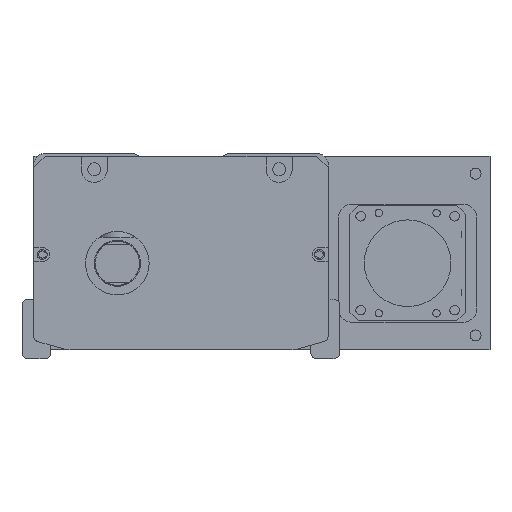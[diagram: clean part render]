
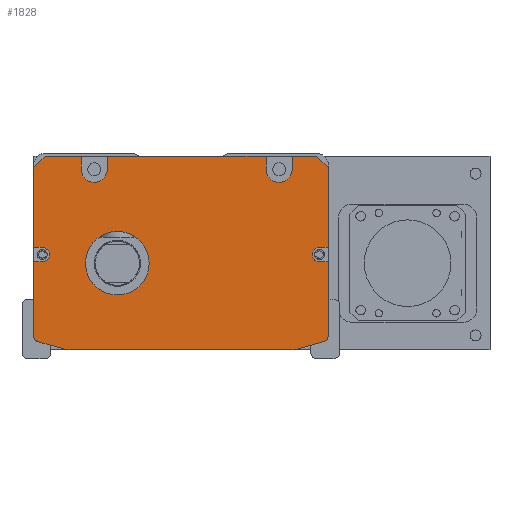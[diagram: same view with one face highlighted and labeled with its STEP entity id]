
A CAD part, front view. The second image highlights one B-rep face of the part: STEP entity #1828.
In plain terms, the highlighted planar face has unit normal (0, -1, 0).
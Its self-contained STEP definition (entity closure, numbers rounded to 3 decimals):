
#1828=ADVANCED_FACE('',(#4376,#4377),#2367,.F.);
#2367=PLANE('',#13833);
#2900=LINE('',#26666,#3695);
#2904=LINE('',#26675,#3699);
#2912=LINE('',#26702,#3707);
#2916=LINE('',#26711,#3711);
#2923=LINE('',#26727,#3718);
#2925=LINE('',#26732,#3720);
#2940=LINE('',#26775,#3735);
#2942=LINE('',#26783,#3737);
#2945=LINE('',#26787,#3740);
#2966=LINE('',#26855,#3761);
#2970=LINE('',#26864,#3765);
#2974=LINE('',#26873,#3769);
#2978=LINE('',#26882,#3773);
#2982=LINE('',#26898,#3777);
#2986=LINE('',#26904,#3781);
#2987=LINE('',#26905,#3782);
#2989=LINE('',#26921,#3784);
#2990=LINE('',#26922,#3785);
#2991=LINE('',#26923,#3786);
#2992=LINE('',#26924,#3787);
#3695=VECTOR('',#16325,1.);
#3699=VECTOR('',#16331,1.);
#3707=VECTOR('',#16353,1.);
#3711=VECTOR('',#16359,1.);
#3718=VECTOR('',#16368,1.);
#3720=VECTOR('',#16372,1.);
#3735=VECTOR('',#16411,1.);
#3737=VECTOR('',#16421,1.);
#3740=VECTOR('',#16426,1.);
#3761=VECTOR('',#16501,1.);
#3765=VECTOR('',#16507,1.);
#3769=VECTOR('',#16513,1.);
#3773=VECTOR('',#16519,1.);
#3777=VECTOR('',#16537,1.);
#3781=VECTOR('',#16541,1.);
#3782=VECTOR('',#16542,1.);
#3784=VECTOR('',#16566,1.);
#3785=VECTOR('',#16567,1.);
#3786=VECTOR('',#16568,1.);
#3787=VECTOR('',#16569,1.);
#4376=FACE_BOUND('',#5246,.T.);
#4377=FACE_BOUND('',#5247,.T.);
#5246=EDGE_LOOP('',(#7701,#7702,#7703,#7704,#7705,#7706,#7707,#7708,#7709,
#7710,#7711,#7712,#7713,#7714,#7715,#7716,#7717,#7718,#7719,#7720,#7721,
#7722,#7723,#7724,#7725,#7726,#7727,#7728));
#5247=EDGE_LOOP('',(#7729));
#7701=ORIENTED_EDGE('',*,*,#11662,.T.);
#7702=ORIENTED_EDGE('',*,*,#11539,.T.);
#7703=ORIENTED_EDGE('',*,*,#11649,.T.);
#7704=ORIENTED_EDGE('',*,*,#11566,.F.);
#7705=ORIENTED_EDGE('',*,*,#11603,.T.);
#7706=ORIENTED_EDGE('',*,*,#11568,.F.);
#7707=ORIENTED_EDGE('',*,*,#11654,.T.);
#7708=ORIENTED_EDGE('',*,*,#11555,.F.);
#7709=ORIENTED_EDGE('',*,*,#11600,.T.);
#7710=ORIENTED_EDGE('',*,*,#11559,.F.);
#7711=ORIENTED_EDGE('',*,*,#11653,.T.);
#7712=ORIENTED_EDGE('',*,*,#11543,.T.);
#7713=ORIENTED_EDGE('',*,*,#11663,.T.);
#7714=ORIENTED_EDGE('',*,*,#11633,.T.);
#7715=ORIENTED_EDGE('',*,*,#11661,.T.);
#7716=ORIENTED_EDGE('',*,*,#11629,.T.);
#7717=ORIENTED_EDGE('',*,*,#11664,.T.);
#7718=ORIENTED_EDGE('',*,*,#11586,.T.);
#7719=ORIENTED_EDGE('',*,*,#11589,.T.);
#7720=ORIENTED_EDGE('',*,*,#11592,.T.);
#7721=ORIENTED_EDGE('',*,*,#11593,.T.);
#7722=ORIENTED_EDGE('',*,*,#11549,.T.);
#7723=ORIENTED_EDGE('',*,*,#11596,.T.);
#7724=ORIENTED_EDGE('',*,*,#11551,.T.);
#7725=ORIENTED_EDGE('',*,*,#11665,.T.);
#7726=ORIENTED_EDGE('',*,*,#11641,.T.);
#7727=ORIENTED_EDGE('',*,*,#11660,.T.);
#7728=ORIENTED_EDGE('',*,*,#11637,.T.);
#7729=ORIENTED_EDGE('',*,*,#11605,.T.);
#10007=VERTEX_POINT('',#26667);
#10008=VERTEX_POINT('',#26668);
#10011=VERTEX_POINT('',#26676);
#10012=VERTEX_POINT('',#26677);
#10017=VERTEX_POINT('',#26688);
#10018=VERTEX_POINT('',#26690);
#10019=VERTEX_POINT('',#26694);
#10020=VERTEX_POINT('',#26695);
#10023=VERTEX_POINT('',#26703);
#10024=VERTEX_POINT('',#26704);
#10027=VERTEX_POINT('',#26712);
#10028=VERTEX_POINT('',#26713);
#10032=VERTEX_POINT('',#26722);
#10034=VERTEX_POINT('',#26726);
#10035=VERTEX_POINT('',#26730);
#10037=VERTEX_POINT('',#26733);
#10047=VERTEX_POINT('',#26763);
#10050=VERTEX_POINT('',#26768);
#10052=VERTEX_POINT('',#26774);
#10054=VERTEX_POINT('',#26780);
#10057=VERTEX_POINT('',#26806);
#10073=VERTEX_POINT('',#26853);
#10075=VERTEX_POINT('',#26856);
#10078=VERTEX_POINT('',#26863);
#10079=VERTEX_POINT('',#26865);
#10081=VERTEX_POINT('',#26871);
#10083=VERTEX_POINT('',#26874);
#10086=VERTEX_POINT('',#26881);
#10087=VERTEX_POINT('',#26883);
#11539=EDGE_CURVE('',#10007,#10008,#2900,.T.);
#11543=EDGE_CURVE('',#10011,#10012,#2904,.T.);
#11549=EDGE_CURVE('',#10018,#10017,#12708,.T.);
#11551=EDGE_CURVE('',#10019,#10020,#12709,.T.);
#11555=EDGE_CURVE('',#10023,#10024,#2912,.T.);
#11559=EDGE_CURVE('',#10027,#10028,#2916,.T.);
#11566=EDGE_CURVE('',#10034,#10032,#2923,.T.);
#11568=EDGE_CURVE('',#10035,#10037,#2925,.T.);
#11586=EDGE_CURVE('',#10047,#10050,#12716,.T.);
#11589=EDGE_CURVE('',#10050,#10052,#2940,.T.);
#11592=EDGE_CURVE('',#10052,#10054,#12718,.T.);
#11593=EDGE_CURVE('',#10054,#10018,#2942,.T.);
#11596=EDGE_CURVE('',#10017,#10019,#2945,.T.);
#11600=EDGE_CURVE('',#10023,#10028,#12721,.T.);
#11603=EDGE_CURVE('',#10034,#10037,#12724,.T.);
#11605=EDGE_CURVE('',#10057,#10057,#12725,.T.);
#11629=EDGE_CURVE('',#10075,#10073,#2966,.T.);
#11633=EDGE_CURVE('',#10079,#10078,#2970,.T.);
#11637=EDGE_CURVE('',#10083,#10081,#2974,.T.);
#11641=EDGE_CURVE('',#10087,#10086,#2978,.T.);
#11649=EDGE_CURVE('',#10008,#10032,#2982,.T.);
#11653=EDGE_CURVE('',#10027,#10011,#2986,.T.);
#11654=EDGE_CURVE('',#10035,#10024,#2987,.T.);
#11660=EDGE_CURVE('',#10086,#10083,#12739,.T.);
#11661=EDGE_CURVE('',#10078,#10075,#12740,.T.);
#11662=EDGE_CURVE('',#10081,#10007,#2989,.T.);
#11663=EDGE_CURVE('',#10012,#10079,#2990,.T.);
#11664=EDGE_CURVE('',#10073,#10047,#2991,.T.);
#11665=EDGE_CURVE('',#10020,#10087,#2992,.T.);
#12708=CIRCLE('',#13760,10.);
#12709=CIRCLE('',#13762,2.);
#12716=CIRCLE('',#13778,2.);
#12718=CIRCLE('',#13782,10.);
#12721=CIRCLE('',#13790,4.5);
#12724=CIRCLE('',#13795,4.5);
#12725=CIRCLE('',#13798,11.);
#12739=CIRCLE('',#13829,2.5);
#12740=CIRCLE('',#13831,2.5);
#13760=AXIS2_PLACEMENT_3D('',#26689,#16340,#16341);
#13762=AXIS2_PLACEMENT_3D('',#26693,#16345,#16346);
#13778=AXIS2_PLACEMENT_3D('',#26769,#16405,#16406);
#13782=AXIS2_PLACEMENT_3D('',#26781,#16417,#16418);
#13790=AXIS2_PLACEMENT_3D('',#26795,#16438,#16439);
#13795=AXIS2_PLACEMENT_3D('',#26801,#16448,#16449);
#13798=AXIS2_PLACEMENT_3D('',#26805,#16455,#16456);
#13829=AXIS2_PLACEMENT_3D('',#26917,#16558,#16559);
#13831=AXIS2_PLACEMENT_3D('',#26919,#16562,#16563);
#13833=AXIS2_PLACEMENT_3D('',#26925,#16570,#16571);
#16325=DIRECTION('',(-0.707,0.,0.707));
#16331=DIRECTION('',(-0.707,0.,-0.707));
#16340=DIRECTION('',(0.,-1.,0.));
#16341=DIRECTION('',(0.,0.,-1.));
#16345=DIRECTION('',(0.,-1.,0.));
#16346=DIRECTION('',(0.,0.,-1.));
#16353=DIRECTION('',(0.,0.,1.));
#16359=DIRECTION('',(0.,0.,-1.));
#16368=DIRECTION('',(0.,0.,1.));
#16372=DIRECTION('',(0.,0.,-1.));
#16405=DIRECTION('',(0.,-1.,0.));
#16406=DIRECTION('',(0.,0.,1.));
#16411=DIRECTION('',(0.963,0.,-0.269));
#16417=DIRECTION('',(0.,-1.,0.));
#16418=DIRECTION('',(0.,0.,1.));
#16421=DIRECTION('',(1.,0.,0.));
#16426=DIRECTION('',(0.963,0.,0.269));
#16438=DIRECTION('',(0.,1.,0.));
#16439=DIRECTION('',(0.,0.,1.));
#16448=DIRECTION('',(0.,1.,0.));
#16449=DIRECTION('',(0.,0.,1.));
#16455=DIRECTION('',(0.,1.,0.));
#16456=DIRECTION('',(0.,0.,1.));
#16501=DIRECTION('',(-1.,0.,0.));
#16507=DIRECTION('',(1.,0.,0.));
#16513=DIRECTION('',(1.,0.,0.));
#16519=DIRECTION('',(-1.,0.,0.));
#16537=DIRECTION('',(-1.,0.,0.));
#16541=DIRECTION('',(-1.,0.,0.));
#16542=DIRECTION('',(-1.,0.,0.));
#16558=DIRECTION('',(0.,1.,0.));
#16559=DIRECTION('',(0.,0.,1.));
#16562=DIRECTION('',(0.,1.,0.));
#16563=DIRECTION('',(0.,0.,1.));
#16566=DIRECTION('',(0.,0.,1.));
#16567=DIRECTION('',(0.,0.,-1.));
#16568=DIRECTION('',(0.,0.,-1.));
#16569=DIRECTION('',(0.,0.,1.));
#16570=DIRECTION('',(0.,1.,0.));
#16571=DIRECTION('',(-1.,0.,0.));
#26666=CARTESIAN_POINT('',(43.808,-267.5,-1.));
#26667=CARTESIAN_POINT('',(47.808,-267.5,-5.));
#26668=CARTESIAN_POINT('',(43.808,-267.5,-1.));
#26675=CARTESIAN_POINT('',(-54.192,-267.5,-5.));
#26676=CARTESIAN_POINT('',(-50.192,-267.5,-1.));
#26677=CARTESIAN_POINT('',(-54.192,-267.5,-5.));
#26688=CARTESIAN_POINT('',(37.424,-267.5,-67.631));
#26689=CARTESIAN_POINT('',(34.733,-267.5,-58.));
#26690=CARTESIAN_POINT('',(34.733,-267.5,-68.));
#26693=CARTESIAN_POINT('',(45.808,-267.5,-63.212));
#26694=CARTESIAN_POINT('',(46.346,-267.5,-65.138));
#26695=CARTESIAN_POINT('',(47.808,-267.5,-63.212));
#26702=CARTESIAN_POINT('',(-28.692,-267.5,-3.5));
#26703=CARTESIAN_POINT('',(-28.692,-267.5,-5.5));
#26704=CARTESIAN_POINT('',(-28.692,-267.5,-1.));
#26711=CARTESIAN_POINT('',(-37.692,-267.5,-1.));
#26712=CARTESIAN_POINT('',(-37.692,-267.5,-1.));
#26713=CARTESIAN_POINT('',(-37.692,-267.5,-5.5));
#26722=CARTESIAN_POINT('',(35.308,-267.5,-1.));
#26726=CARTESIAN_POINT('',(35.308,-267.5,-5.5));
#26727=CARTESIAN_POINT('',(35.308,-267.5,-1.));
#26730=CARTESIAN_POINT('',(26.308,-267.5,-1.));
#26732=CARTESIAN_POINT('',(26.308,-267.5,-1.));
#26733=CARTESIAN_POINT('',(26.308,-267.5,-5.5));
#26763=CARTESIAN_POINT('',(-54.192,-267.5,-63.212));
#26768=CARTESIAN_POINT('',(-52.731,-267.5,-65.138));
#26769=CARTESIAN_POINT('',(-52.192,-267.5,-63.212));
#26774=CARTESIAN_POINT('',(-43.809,-267.5,-67.631));
#26775=CARTESIAN_POINT('',(-55.807,-267.5,-64.279));
#26780=CARTESIAN_POINT('',(-41.118,-267.5,-68.));
#26781=CARTESIAN_POINT('',(-41.118,-267.5,-58.));
#26783=CARTESIAN_POINT('',(-54.692,-267.5,-68.));
#26787=CARTESIAN_POINT('',(49.422,-267.5,-64.279));
#26795=CARTESIAN_POINT('',(-33.192,-267.5,-5.5));
#26801=CARTESIAN_POINT('',(30.808,-267.5,-5.5));
#26805=CARTESIAN_POINT('',(-25.192,-267.5,-38.));
#26806=CARTESIAN_POINT('',(-25.192,-267.5,-27.));
#26853=CARTESIAN_POINT('',(-54.192,-267.5,-37.5));
#26855=CARTESIAN_POINT('',(-3.192,-267.5,-37.5));
#26856=CARTESIAN_POINT('',(-51.192,-267.5,-37.5));
#26863=CARTESIAN_POINT('',(-51.192,-267.5,-32.5));
#26864=CARTESIAN_POINT('',(-3.192,-267.5,-32.5));
#26865=CARTESIAN_POINT('',(-54.192,-267.5,-32.5));
#26871=CARTESIAN_POINT('',(47.808,-267.5,-32.5));
#26873=CARTESIAN_POINT('',(-3.192,-267.5,-32.5));
#26874=CARTESIAN_POINT('',(44.808,-267.5,-32.5));
#26881=CARTESIAN_POINT('',(44.808,-267.5,-37.5));
#26882=CARTESIAN_POINT('',(-3.192,-267.5,-37.5));
#26883=CARTESIAN_POINT('',(47.808,-267.5,-37.5));
#26898=CARTESIAN_POINT('',(-3.192,-267.5,-1.));
#26904=CARTESIAN_POINT('',(-54.192,-267.5,-1.));
#26905=CARTESIAN_POINT('',(-54.192,-267.5,-1.));
#26917=CARTESIAN_POINT('',(44.808,-267.5,-35.));
#26919=CARTESIAN_POINT('',(-51.192,-267.5,-35.));
#26921=CARTESIAN_POINT('',(47.808,-267.5,-1.));
#26922=CARTESIAN_POINT('',(-54.192,-267.5,-62.));
#26923=CARTESIAN_POINT('',(-54.192,-267.5,-62.));
#26924=CARTESIAN_POINT('',(47.808,-267.5,-1.));
#26925=CARTESIAN_POINT('',(-3.192,-267.5,-1.));
